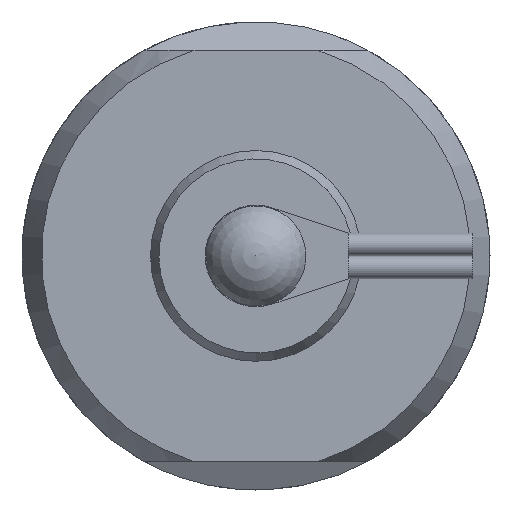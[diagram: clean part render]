
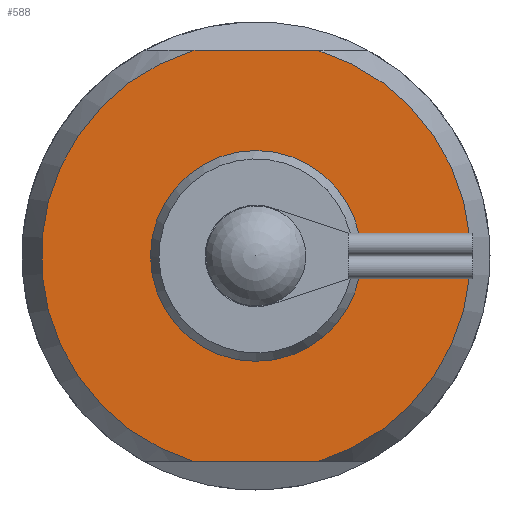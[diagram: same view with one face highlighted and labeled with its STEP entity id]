
A CAD part, front view. The second image highlights one B-rep face of the part: STEP entity #588.
In plain terms, the highlighted planar face has unit normal (0, -1, 0).
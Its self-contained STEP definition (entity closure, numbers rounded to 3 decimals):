
#28 = VERTEX_POINT ( 'NONE', #306 ) ;
#39 = DIRECTION ( 'NONE',  ( 0., 0., -1. ) ) ;
#91 = CIRCLE ( 'NONE', #468, 18.8 ) ;
#107 = EDGE_CURVE ( 'NONE', #970, #28, #1204, .T. ) ;
#167 = EDGE_CURVE ( 'NONE', #28, #1357, #748, .T. ) ;
#169 = DIRECTION ( 'NONE',  ( 0., 0., -1. ) ) ;
#173 = DIRECTION ( 'NONE',  ( 0., -1., 0. ) ) ;
#187 = FACE_BOUND ( 'NONE', #1052, .T. ) ;
#219 = DIRECTION ( 'NONE',  ( 1., 0., 0. ) ) ;
#257 = VERTEX_POINT ( 'NONE', #752 ) ;
#277 = LINE ( 'NONE', #1282, #633 ) ;
#283 = PLANE ( 'NONE',  #429 ) ;
#306 = CARTESIAN_POINT ( 'NONE',  ( -5.426, 1.5, -18. ) ) ;
#310 = DIRECTION ( 'NONE',  ( 0., 0., -1. ) ) ;
#323 = CARTESIAN_POINT ( 'NONE',  ( 7.008, 1.5, -18. ) ) ;
#351 = ORIENTED_EDGE ( 'NONE', *, *, #685, .F. ) ;
#368 = ORIENTED_EDGE ( 'NONE', *, *, #167, .T. ) ;
#386 = EDGE_CURVE ( 'NONE', #1357, #257, #91, .T. ) ;
#406 = ORIENTED_EDGE ( 'NONE', *, *, #386, .T. ) ;
#429 = AXIS2_PLACEMENT_3D ( 'NONE', #1044, #173, #169 ) ;
#466 = CARTESIAN_POINT ( 'NONE',  ( 0., 1.5, 0. ) ) ;
#468 = AXIS2_PLACEMENT_3D ( 'NONE', #466, #809, #39 ) ;
#588 = ADVANCED_FACE ( 'NONE', ( #187, #1254 ), #283, .T. ) ;
#606 = EDGE_LOOP ( 'NONE', ( #368, #406, #873, #850 ) ) ;
#633 = VECTOR ( 'NONE', #1069, 1000. ) ;
#647 = DIRECTION ( 'NONE',  ( 0., -1., 0. ) ) ;
#685 = EDGE_CURVE ( 'NONE', #1347, #1347, #887, .T. ) ;
#748 = LINE ( 'NONE', #323, #1289 ) ;
#752 = CARTESIAN_POINT ( 'NONE',  ( 5.426, 1.5, 18. ) ) ;
#809 = DIRECTION ( 'NONE',  ( 0., -1., 0. ) ) ;
#849 = CARTESIAN_POINT ( 'NONE',  ( 0., 1.5, 0. ) ) ;
#850 = ORIENTED_EDGE ( 'NONE', *, *, #107, .T. ) ;
#873 = ORIENTED_EDGE ( 'NONE', *, *, #1362, .T. ) ;
#887 = CIRCLE ( 'NONE', #1158, 9.232 ) ;
#912 = AXIS2_PLACEMENT_3D ( 'NONE', #1363, #647, #1271 ) ;
#970 = VERTEX_POINT ( 'NONE', #1134 ) ;
#972 = DIRECTION ( 'NONE',  ( 0., -1., 0. ) ) ;
#997 = CARTESIAN_POINT ( 'NONE',  ( 0., 1.5, -9.232 ) ) ;
#1044 = CARTESIAN_POINT ( 'NONE',  ( 14.016, 1.5, 0. ) ) ;
#1052 = EDGE_LOOP ( 'NONE', ( #351 ) ) ;
#1069 = DIRECTION ( 'NONE',  ( -1., 0., 0. ) ) ;
#1134 = CARTESIAN_POINT ( 'NONE',  ( -5.426, 1.5, 18. ) ) ;
#1158 = AXIS2_PLACEMENT_3D ( 'NONE', #849, #972, #310 ) ;
#1193 = CARTESIAN_POINT ( 'NONE',  ( 5.426, 1.5, -18. ) ) ;
#1204 = CIRCLE ( 'NONE', #912, 18.8 ) ;
#1254 = FACE_OUTER_BOUND ( 'NONE', #606, .T. ) ;
#1271 = DIRECTION ( 'NONE',  ( 0., 0., -1. ) ) ;
#1282 = CARTESIAN_POINT ( 'NONE',  ( 7.008, 1.5, 18. ) ) ;
#1289 = VECTOR ( 'NONE', #219, 1000. ) ;
#1347 = VERTEX_POINT ( 'NONE', #997 ) ;
#1357 = VERTEX_POINT ( 'NONE', #1193 ) ;
#1362 = EDGE_CURVE ( 'NONE', #257, #970, #277, .T. ) ;
#1363 = CARTESIAN_POINT ( 'NONE',  ( 0., 1.5, 0. ) ) ;
